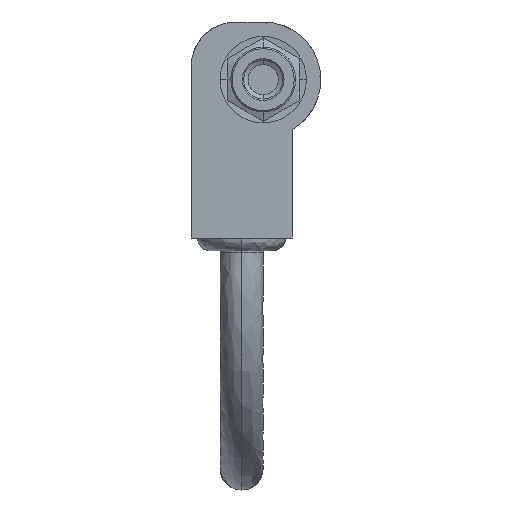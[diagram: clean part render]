
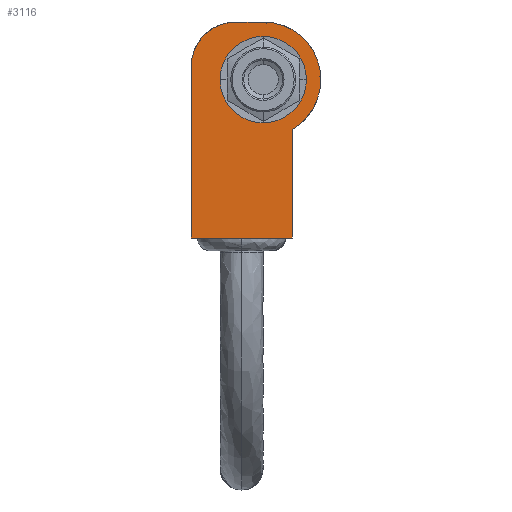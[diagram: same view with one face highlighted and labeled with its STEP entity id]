
A CAD part, front view. The second image highlights one B-rep face of the part: STEP entity #3116.
In plain terms, the highlighted free-form (B-spline) face has degree [1, 1] with [2, 2] control points.
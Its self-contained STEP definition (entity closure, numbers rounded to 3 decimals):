
#83=CARTESIAN_POINT('',(0.,-28.25,0.));
#84=DIRECTION('',(0.,1.,0.));
#85=DIRECTION('',(1.,0.,0.));
#86=AXIS2_PLACEMENT_3D('',#83,#84,#85);
#88=CARTESIAN_POINT('',(0.,-28.25,0.));
#89=DIRECTION('',(0.,-1.,0.));
#90=DIRECTION('',(1.,0.,0.));
#91=AXIS2_PLACEMENT_3D('',#88,#89,#90);
#93=CARTESIAN_POINT('',(-1.9,-28.25,0.9));
#94=DIRECTION('',(0.,-1.,0.));
#95=DIRECTION('',(0.,0.,1.));
#96=AXIS2_PLACEMENT_3D('',#93,#94,#95);
#98=DIRECTION('',(1.,0.,0.));
#99=VECTOR('',#98,1.9);
#100=CARTESIAN_POINT('',(-1.9,-28.25,4.));
#101=LINE('',#100,#99);
#102=DIRECTION('',(0.,0.,-1.));
#103=VECTOR('',#102,7.536);
#104=CARTESIAN_POINT('',(2.,-28.25,-3.464));
#105=LINE('',#104,#103);
#106=DIRECTION('',(0.,0.,1.));
#107=VECTOR('',#106,11.9);
#108=CARTESIAN_POINT('',(-5.,-28.25,-11.));
#109=LINE('',#108,#107);
#133=DIRECTION('',(1.,0.,0.));
#134=VECTOR('',#133,7.);
#135=CARTESIAN_POINT('',(-5.,-28.25,-11.));
#136=LINE('',#135,#134);
#304=CARTESIAN_POINT('',(0.,-28.25,0.));
#305=DIRECTION('',(0.,1.,0.));
#306=DIRECTION('',(1.,0.,0.));
#307=AXIS2_PLACEMENT_3D('',#304,#305,#306);
#317=CARTESIAN_POINT('',(0.,-28.25,0.));
#318=DIRECTION('',(0.,-1.,0.));
#319=DIRECTION('',(1.,0.,0.));
#320=AXIS2_PLACEMENT_3D('',#317,#318,#319);
#2634=CARTESIAN_POINT('',(4.,-28.25,0.));
#2636=VERTEX_POINT('',#2634);
#2638=CARTESIAN_POINT('',(3.,-28.25,0.));
#2639=CARTESIAN_POINT('',(-3.,-28.25,0.));
#2640=VERTEX_POINT('',#2638);
#2641=VERTEX_POINT('',#2639);
#2652=CARTESIAN_POINT('',(0.,-28.25,4.));
#2653=VERTEX_POINT('',#2652);
#2654=CARTESIAN_POINT('',(2.,-28.25,-3.464));
#2655=VERTEX_POINT('',#2654);
#2656=CARTESIAN_POINT('',(2.,-28.25,-11.));
#2657=VERTEX_POINT('',#2656);
#2665=CARTESIAN_POINT('',(-5.,-28.25,-11.));
#2666=VERTEX_POINT('',#2665);
#2874=CARTESIAN_POINT('',(-1.9,-28.25,4.));
#2875=CARTESIAN_POINT('',(-5.,-28.25,0.9));
#2876=VERTEX_POINT('',#2874);
#2877=VERTEX_POINT('',#2875);
#3091=CARTESIAN_POINT('',(4.18,-28.25,4.3));
#3092=CARTESIAN_POINT('',(4.18,-28.25,-11.3));
#3093=CARTESIAN_POINT('',(-5.18,-28.25,4.3));
#3094=CARTESIAN_POINT('',(-5.18,-28.25,-11.3));
#3095=B_SPLINE_SURFACE_WITH_KNOTS('',1,1,((#3091,#3092),(#3093,#3094)),
.UNSPECIFIED.,.F.,.F.,.F.,(2,2),(2,2),(-4.18,5.18),(-4.3,11.3),
.UNSPECIFIED.);
#3097=ORIENTED_EDGE('',*,*,#3096,.F.);
#3099=ORIENTED_EDGE('',*,*,#3098,.T.);
#3101=ORIENTED_EDGE('',*,*,#3100,.F.);
#3103=ORIENTED_EDGE('',*,*,#3102,.T.);
#3105=ORIENTED_EDGE('',*,*,#3104,.T.);
#3107=ORIENTED_EDGE('',*,*,#3106,.F.);
#3109=ORIENTED_EDGE('',*,*,#3108,.T.);
#3110=EDGE_LOOP('',(#3097,#3099,#3101,#3103,#3105,#3107,#3109));
#3111=FACE_OUTER_BOUND('',#3110,.F.);
#3112=ORIENTED_EDGE('',*,*,#3019,.F.);
#3113=ORIENTED_EDGE('',*,*,#3085,.T.);
#3114=EDGE_LOOP('',(#3112,#3113));
#3115=FACE_BOUND('',#3114,.F.);
#87=CIRCLE('',#86,3.);
#92=CIRCLE('',#91,3.);
#97=CIRCLE('',#96,3.1);
#308=CIRCLE('',#307,4.);
#321=CIRCLE('',#320,4.);
#3019=EDGE_CURVE('',#2640,#2641,#87,.T.);
#3085=EDGE_CURVE('',#2640,#2641,#92,.T.);
#3096=EDGE_CURVE('',#2876,#2877,#97,.T.);
#3098=EDGE_CURVE('',#2876,#2653,#101,.T.);
#3100=EDGE_CURVE('',#2636,#2653,#321,.T.);
#3102=EDGE_CURVE('',#2636,#2655,#308,.T.);
#3104=EDGE_CURVE('',#2655,#2657,#105,.T.);
#3106=EDGE_CURVE('',#2666,#2657,#136,.T.);
#3108=EDGE_CURVE('',#2666,#2877,#109,.T.);
#3116=ADVANCED_FACE('',(#3111,#3115),#3095,.T.);
